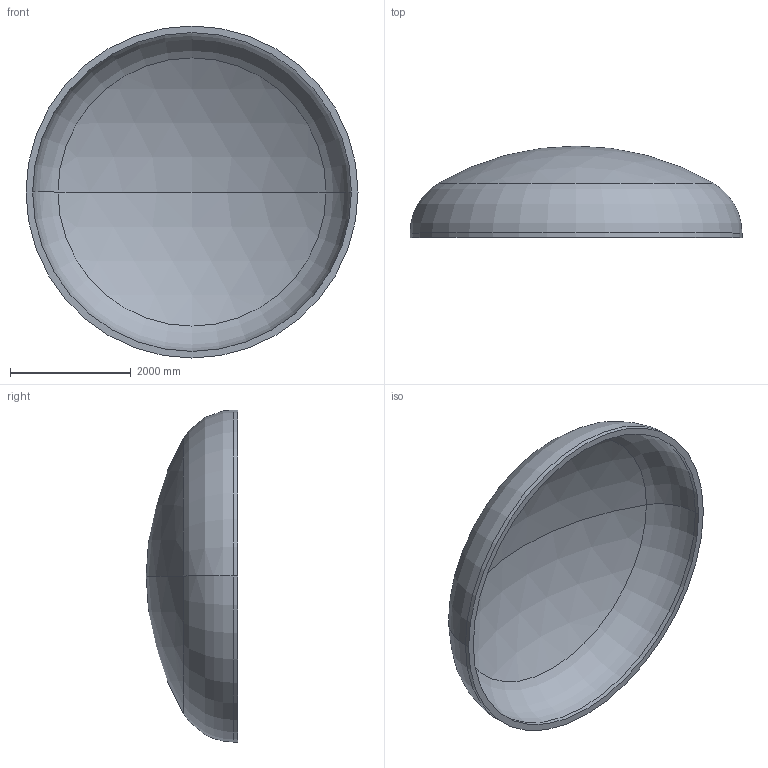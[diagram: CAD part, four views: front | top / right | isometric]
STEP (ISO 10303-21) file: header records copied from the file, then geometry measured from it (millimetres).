
FILE_DESCRIPTION (( 'STEP AP203' ), '1' );
FILE_NAME ('DIN 28013 Korbbogenform_-_Boden DIN 28013 - 5500 x 75 - I - s=110.step', '2016-07-04T10:35:19', ( '' ), ( '' ), 'SwSTEP 2.0', 'SolidWorks 2013', '' );
FILE_SCHEMA (( 'CONFIG_CONTROL_DESIGN' ));
Length unit declared in the file: millimetre
Products named in the file (1): DIN 28013 Korbbogenform_-_Boden DIN 28013 - 5500 x 75 - I - s=110
Bounding box: 5500 x 1516.45 x 5500 mm (x, y, z)
Volume: 3663525225.5 mm3; surface area: 68497517.4 mm2
Topology: 1 solids, 1 shells, 13 faces, 24 edges, 14 vertices
Faces by surface type: torus 4, cylinder 4, sphere 4, plane 1
Entity records: 407 total; most frequent: DIRECTION 72, CARTESIAN_POINT 52, ORIENTED_EDGE 48, AXIS2_PLACEMENT_3D 34, EDGE_CURVE 24, CIRCLE 20, VERTEX_POINT 14, EDGE_LOOP 14
